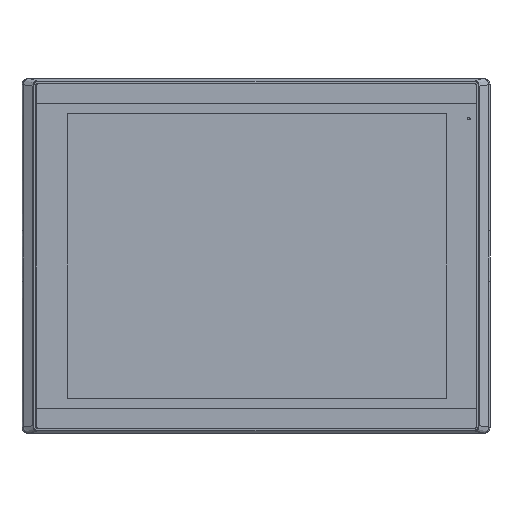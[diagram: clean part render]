
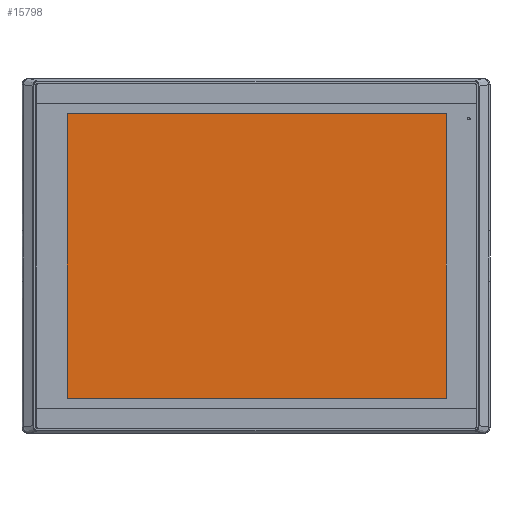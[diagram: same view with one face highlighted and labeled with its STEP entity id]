
A CAD part, top view. The second image highlights one B-rep face of the part: STEP entity #15798.
In plain terms, the highlighted planar face has unit normal (0, 0, 1).
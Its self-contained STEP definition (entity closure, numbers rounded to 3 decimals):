
#3586=DIRECTION('',(0.,-1.,0.));
#3587=VECTOR('',#3586,228.7);
#3588=CARTESIAN_POINT('',(-123.183,94.183,17.3));
#3589=LINE('',#3588,#3587);
#3590=DIRECTION('',(-1.,0.,0.));
#3591=VECTOR('',#3590,304.7);
#3592=CARTESIAN_POINT('',(181.518,94.183,17.3));
#3593=LINE('',#3592,#3591);
#3602=DIRECTION('',(0.,1.,0.));
#3603=VECTOR('',#3602,228.7);
#3604=CARTESIAN_POINT('',(181.518,-134.517,17.3));
#3605=LINE('',#3604,#3603);
#3614=DIRECTION('',(1.,0.,0.));
#3615=VECTOR('',#3614,304.7);
#3616=CARTESIAN_POINT('',(-123.183,-134.517,17.3));
#3617=LINE('',#3616,#3615);
#8652=CARTESIAN_POINT('',(-123.183,94.183,17.3));
#8654=VERTEX_POINT('',#8652);
#8657=CARTESIAN_POINT('',(-123.183,-134.517,17.3));
#8659=VERTEX_POINT('',#8657);
#8660=CARTESIAN_POINT('',(181.518,94.183,17.3));
#8662=VERTEX_POINT('',#8660);
#8664=CARTESIAN_POINT('',(181.518,-134.517,17.3));
#8666=VERTEX_POINT('',#8664);
#15784=CARTESIAN_POINT('',(29.168,-20.167,17.3));
#15785=DIRECTION('',(0.,0.,1.));
#15786=DIRECTION('',(1.,0.,0.));
#15787=AXIS2_PLACEMENT_3D('',#15784,#15785,#15786);
#15788=PLANE('',#15787);
#15789=ORIENTED_EDGE('',*,*,#15774,.F.);
#15791=ORIENTED_EDGE('',*,*,#15790,.F.);
#15793=ORIENTED_EDGE('',*,*,#15792,.F.);
#15795=ORIENTED_EDGE('',*,*,#15794,.F.);
#15796=EDGE_LOOP('',(#15789,#15791,#15793,#15795));
#15797=FACE_OUTER_BOUND('',#15796,.F.);
#15798=ADVANCED_FACE('',(#15797),#15788,.T.);
#15774=EDGE_CURVE('',#8654,#8659,#3589,.T.);
#15790=EDGE_CURVE('',#8662,#8654,#3593,.T.);
#15792=EDGE_CURVE('',#8666,#8662,#3605,.T.);
#15794=EDGE_CURVE('',#8659,#8666,#3617,.T.);
